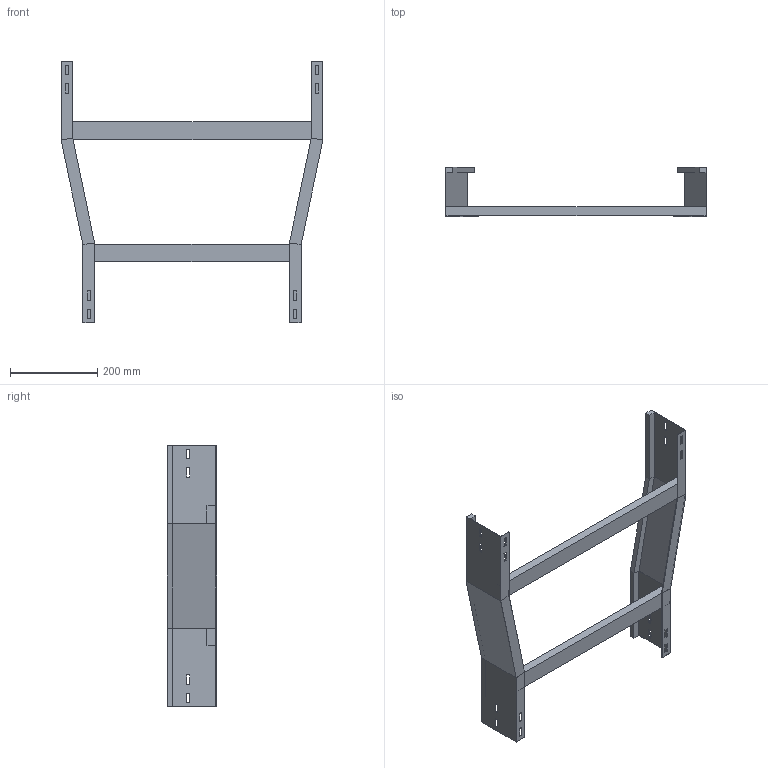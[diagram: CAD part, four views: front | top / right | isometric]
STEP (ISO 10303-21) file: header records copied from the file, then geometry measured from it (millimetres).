
FILE_DESCRIPTION (( 'STEP AP214' ), '1' );
FILE_NAME ('B2X20B5J600XX.step', '2025-09-02T17:14:55', ( '' ), ( '' ), 'SwSTEP 2.0', 'SolidWorks 2023', '' );
FILE_SCHEMA (( 'AUTOMOTIVE_DESIGN' ));
Length unit declared in the file: millimetre
Products named in the file (4): TRAVERSINO_500; TRAVERSINO_600; B2X20B5J600XX; SPONDA RID. CENTRALE 600-500_H112.5
Assembly tree (3 placements, depth 2):
  B2X20B5J600XX
    SPONDA RID. CENTRALE 600-500_H112.5
    TRAVERSINO_500
    TRAVERSINO_600
Bounding box: 600 x 112.5 x 600 mm (x, y, z)
Volume: 1444804.9 mm3; surface area: 510573.2 mm2
Topology: 4 solids, 4 shells, 128 faces, 328 edges, 208 vertices
Faces by surface type: plane 128
Entity records: 3950 total; most frequent: CARTESIAN_POINT 670, ORIENTED_EDGE 656, DIRECTION 596, LINE 328, EDGE_CURVE 328, VECTOR 328, VERTEX_POINT 208, EDGE_LOOP 160
